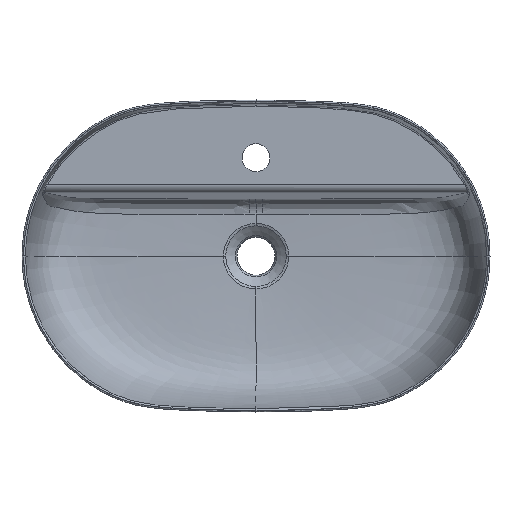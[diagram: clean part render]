
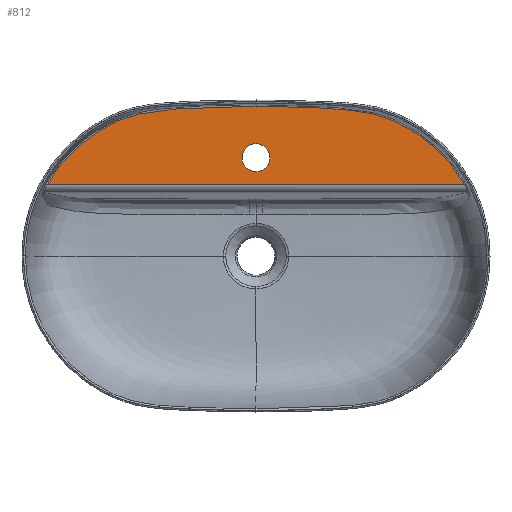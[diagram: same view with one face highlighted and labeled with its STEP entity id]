
A CAD part, top view. The second image highlights one B-rep face of the part: STEP entity #812.
In plain terms, the highlighted planar face has unit normal (0, -0.018, 1).
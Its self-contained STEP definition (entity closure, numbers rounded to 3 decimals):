
#74=ELLIPSE('',#4239,17.003,17.);
#97=PLANE('',#4240);
#382=LINE('',#25361,#434);
#434=VECTOR('',#4468,1.);
#812=ADVANCED_FACE('',(#1094,#1095),#97,.F.);
#1094=FACE_BOUND('',#1238,.T.);
#1095=FACE_BOUND('',#1239,.T.);
#1238=EDGE_LOOP('',(#2040));
#1239=EDGE_LOOP('',(#2041,#2042,#2043));
#2040=ORIENTED_EDGE('',*,*,#3514,.F.);
#2041=ORIENTED_EDGE('',*,*,#3515,.T.);
#2042=ORIENTED_EDGE('',*,*,#3516,.T.);
#2043=ORIENTED_EDGE('',*,*,#3517,.T.);
#3023=VERTEX_POINT('',#25321);
#3024=VERTEX_POINT('',#25340);
#3025=VERTEX_POINT('',#25341);
#3026=VERTEX_POINT('',#25360);
#3514=EDGE_CURVE('',#3023,#3023,#74,.T.);
#3515=EDGE_CURVE('',#3024,#3025,#4101,.T.);
#3516=EDGE_CURVE('',#3025,#3026,#4102,.T.);
#3517=EDGE_CURVE('',#3026,#3024,#382,.T.);
#4101=B_SPLINE_CURVE_WITH_KNOTS('',3,(#25322,#25323,#25324,#25325,#25326,
#25327,#25328,#25329,#25330,#25331,#25332,#25333,#25334,#25335,#25336,#25337,
#25338,#25339),.UNSPECIFIED.,.F.,.F.,(4,2,2,2,2,2,2,2,4),(0.,0.125,0.25,
0.375,0.438,0.5,0.625,0.75,1.),
 .UNSPECIFIED.);
#4102=B_SPLINE_CURVE_WITH_KNOTS('',3,(#25342,#25343,#25344,#25345,#25346,
#25347,#25348,#25349,#25350,#25351,#25352,#25353,#25354,#25355,#25356,#25357,
#25358,#25359),.UNSPECIFIED.,.F.,.F.,(4,2,2,2,2,2,2,2,4),(0.,0.25,0.375,
0.5,0.563,0.625,0.75,0.875,1.),
 .UNSPECIFIED.);
#4239=AXIS2_PLACEMENT_3D('',#25320,#4466,#4467);
#4240=AXIS2_PLACEMENT_3D('',#25362,#4469,#4470);
#4466=DIRECTION('',(0.,-0.017,1.));
#4467=DIRECTION('',(0.,1.,0.017));
#4468=DIRECTION('',(1.,0.,0.));
#4469=DIRECTION('',(0.,0.017,-1.));
#4470=DIRECTION('',(0.,1.,0.017));
#25320=CARTESIAN_POINT('',(0.,119.778,130.52));
#25321=CARTESIAN_POINT('',(0.,136.778,130.817));
#25322=CARTESIAN_POINT('',(254.101,86.83,129.945));
#25323=CARTESIAN_POINT('',(248.152,97.372,130.129));
#25324=CARTESIAN_POINT('',(241.223,107.157,130.299));
#25325=CARTESIAN_POINT('',(225.547,125.319,130.616));
#25326=CARTESIAN_POINT('',(216.726,133.727,130.763));
#25327=CARTESIAN_POINT('',(197.923,148.5,131.021));
#25328=CARTESIAN_POINT('',(187.881,154.957,131.134));
#25329=CARTESIAN_POINT('',(171.748,163.091,131.276));
#25330=CARTESIAN_POINT('',(166.182,165.537,131.319));
#25331=CARTESIAN_POINT('',(154.944,169.692,131.391));
#25332=CARTESIAN_POINT('',(149.239,171.422,131.421));
#25333=CARTESIAN_POINT('',(131.878,175.625,131.495));
#25334=CARTESIAN_POINT('',(119.97,177.162,131.521));
#25335=CARTESIAN_POINT('',(96.023,179.361,131.56));
#25336=CARTESIAN_POINT('',(84.034,180.104,131.573));
#25337=CARTESIAN_POINT('',(48.054,181.953,131.605));
#25338=CARTESIAN_POINT('',(24.038,182.464,131.614));
#25339=CARTESIAN_POINT('',(0.,182.466,131.614));
#25340=CARTESIAN_POINT('',(254.101,86.83,129.945));
#25341=CARTESIAN_POINT('',(0.,182.466,131.614));
#25342=CARTESIAN_POINT('',(0.,182.466,131.614));
#25343=CARTESIAN_POINT('',(-24.029,182.467,131.614));
#25344=CARTESIAN_POINT('',(-48.039,181.956,131.605));
#25345=CARTESIAN_POINT('',(-84.014,180.111,131.573));
#25346=CARTESIAN_POINT('',(-96.011,179.361,131.56));
#25347=CARTESIAN_POINT('',(-119.933,177.166,131.521));
#25348=CARTESIAN_POINT('',(-131.8,175.638,131.495));
#25349=CARTESIAN_POINT('',(-149.182,171.439,131.422));
#25350=CARTESIAN_POINT('',(-154.903,169.706,131.391));
#25351=CARTESIAN_POINT('',(-166.191,165.534,131.318));
#25352=CARTESIAN_POINT('',(-171.77,163.08,131.276));
#25353=CARTESIAN_POINT('',(-187.857,154.968,131.134));
#25354=CARTESIAN_POINT('',(-197.89,148.523,131.022));
#25355=CARTESIAN_POINT('',(-216.7,133.751,130.764));
#25356=CARTESIAN_POINT('',(-225.533,125.333,130.617));
#25357=CARTESIAN_POINT('',(-241.213,107.168,130.3));
#25358=CARTESIAN_POINT('',(-248.146,97.379,130.129));
#25359=CARTESIAN_POINT('',(-254.102,86.83,129.945));
#25360=CARTESIAN_POINT('',(-254.102,86.83,129.945));
#25361=CARTESIAN_POINT('',(260.607,86.83,129.945));
#25362=CARTESIAN_POINT('',(-254.128,90.,130.));
